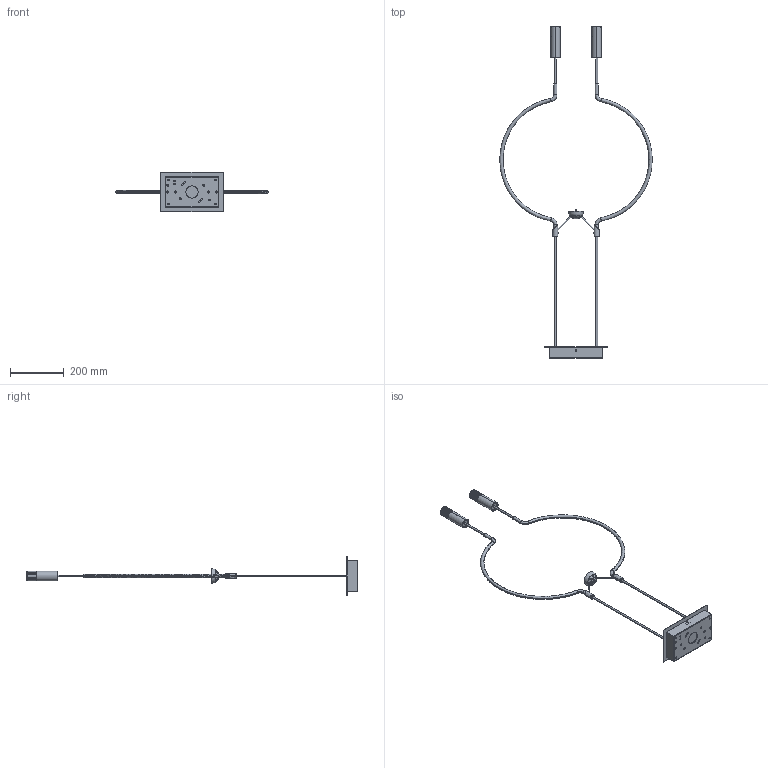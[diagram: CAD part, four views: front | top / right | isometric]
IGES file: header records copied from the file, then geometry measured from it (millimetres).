
Start section: SolidWorks IGES file using analytic representation for surfaces
Global section: file name: \\STORAGE\Tecnico Condiviso\10 NUOVI PROGETTI IN SVILUPPO\NUOVI PROGETTI AXO\AXO058 LIAISON\DRAW\3D\20180830-LIAISON SP2 ROSONE\wetransfer-7ac72d\Pack and Go 1.0A.AXO01.LS07.A1\SPLIAIP2XXXXLED-PER 3D.IGS; native system: SolidWorks 2018; preprocessor: SolidWorks 2018; author: tecnico3; date: 180831.081335; units: millimetre
Bounding box: 564.81 x 1230.21 x 145 mm (x, y, z)
Surface area: 412931.2 mm2 (no closed solid volume)
Topology: 0 solids, 0 shells, 720 faces, 14898 edges, 14882 vertices
Faces by surface type: revolution 408, bspline 312
